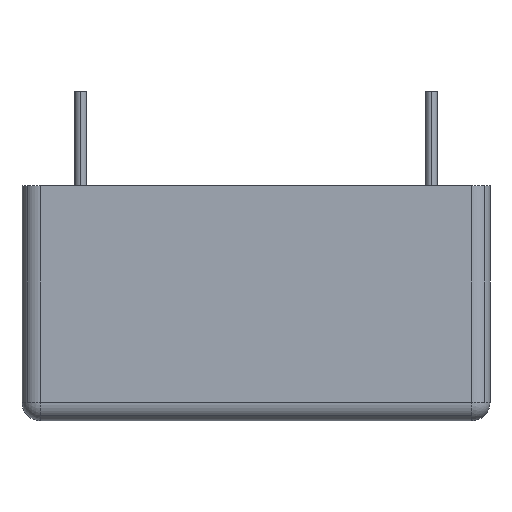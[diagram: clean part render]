
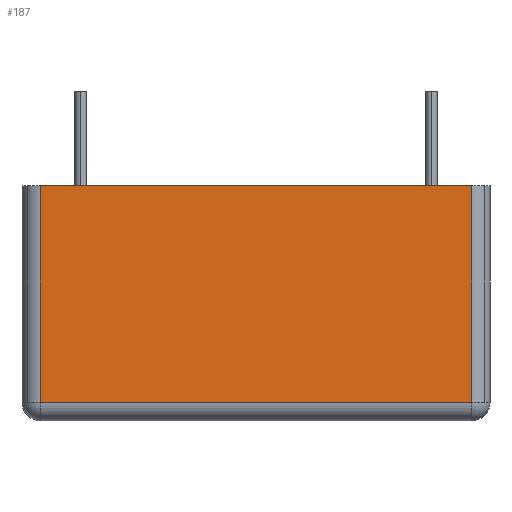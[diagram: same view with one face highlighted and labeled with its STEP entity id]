
A CAD part, left-side view. The second image highlights one B-rep face of the part: STEP entity #187.
In plain terms, the highlighted planar face has unit normal (-1, 0, 0).
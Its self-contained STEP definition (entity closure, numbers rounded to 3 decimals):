
#35 = ORIENTED_EDGE ( 'NONE', *, *, #657, .F. ) ;
#132 = AXIS2_PLACEMENT_3D ( 'NONE', #417, #1086, #1092 ) ;
#144 = ORIENTED_EDGE ( 'NONE', *, *, #941, .F. ) ;
#187 = ADVANCED_FACE ( 'NONE', ( #318 ), #1189, .T. ) ;
#189 = DIRECTION ( 'NONE',  ( 0., 0., -1. ) ) ;
#271 = VECTOR ( 'NONE', #1154, 1000. ) ;
#278 = CARTESIAN_POINT ( 'NONE',  ( -15.9, 9.35, 10.2 ) ) ;
#318 = FACE_OUTER_BOUND ( 'NONE', #1346, .T. ) ;
#320 = VERTEX_POINT ( 'NONE', #278 ) ;
#338 = DIRECTION ( 'NONE',  ( 0., 1., 0. ) ) ;
#352 = LINE ( 'NONE', #1245, #498 ) ;
#359 = CARTESIAN_POINT ( 'NONE',  ( -15.9, 9.35, 0.8 ) ) ;
#417 = CARTESIAN_POINT ( 'NONE',  ( -15.9, -10.15, 0. ) ) ;
#489 = ORIENTED_EDGE ( 'NONE', *, *, #649, .F. ) ;
#498 = VECTOR ( 'NONE', #338, 1000. ) ;
#550 = LINE ( 'NONE', #992, #1217 ) ;
#605 = LINE ( 'NONE', #1051, #1400 ) ;
#633 = VERTEX_POINT ( 'NONE', #1173 ) ;
#649 = EDGE_CURVE ( 'NONE', #991, #320, #1259, .T. ) ;
#655 = ORIENTED_EDGE ( 'NONE', *, *, #959, .T. ) ;
#657 = EDGE_CURVE ( 'NONE', #1098, #633, #605, .T. ) ;
#799 = DIRECTION ( 'NONE',  ( 0., 1., 0. ) ) ;
#807 = CARTESIAN_POINT ( 'NONE',  ( -15.9, -9.35, 10.2 ) ) ;
#941 = EDGE_CURVE ( 'NONE', #633, #991, #550, .T. ) ;
#956 = CARTESIAN_POINT ( 'NONE',  ( -15.9, 9.35, 0. ) ) ;
#959 = EDGE_CURVE ( 'NONE', #1098, #320, #352, .T. ) ;
#991 = VERTEX_POINT ( 'NONE', #359 ) ;
#992 = CARTESIAN_POINT ( 'NONE',  ( -15.9, -5.075, 0.8 ) ) ;
#1051 = CARTESIAN_POINT ( 'NONE',  ( -15.9, -9.35, 0. ) ) ;
#1086 = DIRECTION ( 'NONE',  ( -1., 0., 0. ) ) ;
#1092 = DIRECTION ( 'NONE',  ( 0., 1., 0. ) ) ;
#1098 = VERTEX_POINT ( 'NONE', #807 ) ;
#1154 = DIRECTION ( 'NONE',  ( 0., 0., 1. ) ) ;
#1173 = CARTESIAN_POINT ( 'NONE',  ( -15.9, -9.35, 0.8 ) ) ;
#1189 = PLANE ( 'NONE',  #132 ) ;
#1217 = VECTOR ( 'NONE', #799, 1000. ) ;
#1245 = CARTESIAN_POINT ( 'NONE',  ( -15.9, 10.15, 10.2 ) ) ;
#1259 = LINE ( 'NONE', #956, #271 ) ;
#1346 = EDGE_LOOP ( 'NONE', ( #35, #655, #489, #144 ) ) ;
#1400 = VECTOR ( 'NONE', #189, 1000. ) ;
